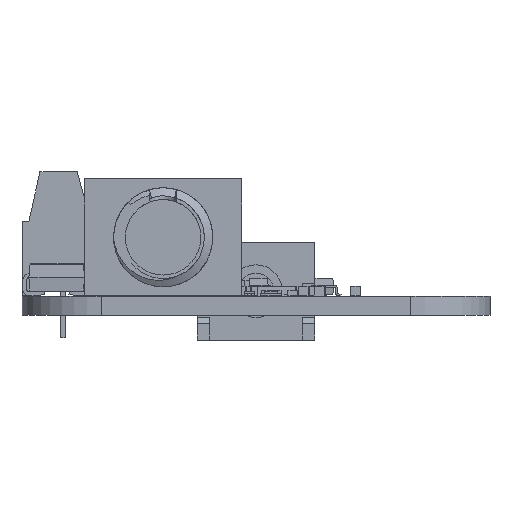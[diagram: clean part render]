
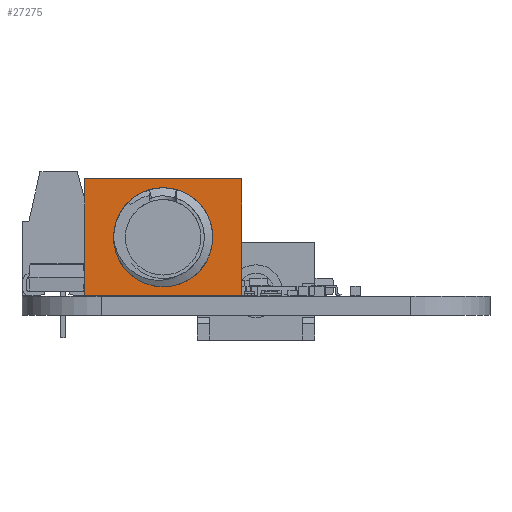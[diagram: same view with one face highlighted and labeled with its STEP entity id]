
A CAD part, left-side view. The second image highlights one B-rep face of the part: STEP entity #27275.
In plain terms, the highlighted planar face has unit normal (-1, 0, 0) as drawn and (0, 1, 0) by its records, which use the part's own axes.
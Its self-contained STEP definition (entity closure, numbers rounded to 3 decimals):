
#27044 = VERTEX_POINT('',#27045);
#27045 = CARTESIAN_POINT('',(4.725,3.201,4.027));
#27051 = EDGE_CURVE('',#27052,#27044,#27054,.T.);
#27052 = VERTEX_POINT('',#27053);
#27053 = CARTESIAN_POINT('',(4.725,3.201,-2.173));
#27054 = CIRCLE('',#27055,3.1);
#27055 = AXIS2_PLACEMENT_3D('',#27056,#27057,#27058);
#27056 = CARTESIAN_POINT('',(4.725,3.201,0.927));
#27057 = DIRECTION('',(0.,1.,0.));
#27058 = DIRECTION('',(0.,0.,1.));
#27168 = VERTEX_POINT('',#27169);
#27169 = CARTESIAN_POINT('',(0.,3.201,7.277));
#27186 = VERTEX_POINT('',#27187);
#27187 = CARTESIAN_POINT('',(9.45,3.201,7.277));
#27193 = EDGE_CURVE('',#27186,#27168,#27194,.T.);
#27194 = LINE('',#27195,#27196);
#27195 = CARTESIAN_POINT('',(9.45,3.201,7.277));
#27196 = VECTOR('',#27197,1.);
#27197 = DIRECTION('',(-1.,0.,0.));
#27249 = VERTEX_POINT('',#27250);
#27250 = CARTESIAN_POINT('',(0.,3.201,-5.423));
#27256 = EDGE_CURVE('',#27257,#27249,#27259,.T.);
#27257 = VERTEX_POINT('',#27258);
#27258 = CARTESIAN_POINT('',(9.45,3.201,-5.423));
#27259 = LINE('',#27260,#27261);
#27260 = CARTESIAN_POINT('',(9.45,3.201,-5.423));
#27261 = VECTOR('',#27262,1.);
#27262 = DIRECTION('',(-1.,0.,0.));
#27275 = ADVANCED_FACE('',(#27276,#27286),#27302,.F.);
#27276 = FACE_BOUND('',#27277,.T.);
#27277 = EDGE_LOOP('',(#27278,#27285));
#27278 = ORIENTED_EDGE('',*,*,#27279,.F.);
#27279 = EDGE_CURVE('',#27044,#27052,#27280,.T.);
#27280 = CIRCLE('',#27281,3.1);
#27281 = AXIS2_PLACEMENT_3D('',#27282,#27283,#27284);
#27282 = CARTESIAN_POINT('',(4.725,3.201,0.927));
#27283 = DIRECTION('',(0.,1.,0.));
#27284 = DIRECTION('',(0.,0.,1.));
#27285 = ORIENTED_EDGE('',*,*,#27051,.F.);
#27286 = FACE_BOUND('',#27287,.T.);
#27287 = EDGE_LOOP('',(#27288,#27294,#27295,#27301));
#27288 = ORIENTED_EDGE('',*,*,#27289,.T.);
#27289 = EDGE_CURVE('',#27249,#27168,#27290,.T.);
#27290 = LINE('',#27291,#27292);
#27291 = CARTESIAN_POINT('',(0.,3.201,7.277));
#27292 = VECTOR('',#27293,1.);
#27293 = DIRECTION('',(0.,0.,1.));
#27294 = ORIENTED_EDGE('',*,*,#27193,.F.);
#27295 = ORIENTED_EDGE('',*,*,#27296,.F.);
#27296 = EDGE_CURVE('',#27257,#27186,#27297,.T.);
#27297 = LINE('',#27298,#27299);
#27298 = CARTESIAN_POINT('',(9.45,3.201,7.277));
#27299 = VECTOR('',#27300,1.);
#27300 = DIRECTION('',(0.,0.,1.));
#27301 = ORIENTED_EDGE('',*,*,#27256,.T.);
#27302 = PLANE('',#27303);
#27303 = AXIS2_PLACEMENT_3D('',#27304,#27305,#27306);
#27304 = CARTESIAN_POINT('',(9.45,3.201,7.277));
#27305 = DIRECTION('',(0.,-1.,0.));
#27306 = DIRECTION('',(0.,0.,-1.));
